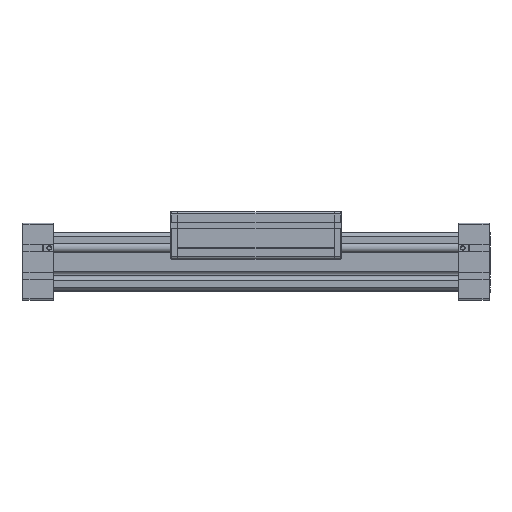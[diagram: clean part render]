
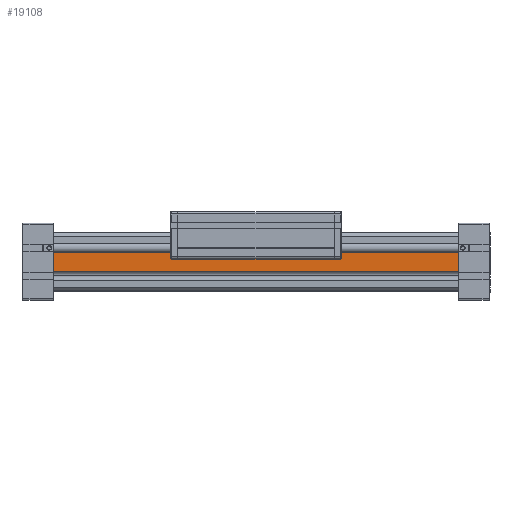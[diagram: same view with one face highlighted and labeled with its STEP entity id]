
A CAD part, top view. The second image highlights one B-rep face of the part: STEP entity #19108.
In plain terms, the highlighted planar face has unit normal (0, 0, 1) as drawn and (0, 0, -1) by its records, which use the part's own axes.
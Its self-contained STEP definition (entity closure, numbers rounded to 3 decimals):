
#1798 = LINE ( 'NONE', #12099, #14623 ) ;
#1873 = CARTESIAN_POINT ( 'NONE',  ( 0., -20.835, -62.5 ) ) ;
#3529 = CARTESIAN_POINT ( 'NONE',  ( 870., 0., -62.5 ) ) ;
#3627 = DIRECTION ( 'NONE',  ( -1., 0., 0. ) ) ;
#4344 = ORIENTED_EDGE ( 'NONE', *, *, #7198, .F. ) ;
#4912 = DIRECTION ( 'NONE',  ( 0., -1., 0. ) ) ;
#5249 = VECTOR ( 'NONE', #13416, 1000. ) ;
#6005 = VECTOR ( 'NONE', #29357, 1000. ) ;
#6277 = ORIENTED_EDGE ( 'NONE', *, *, #24091, .T. ) ;
#7198 = EDGE_CURVE ( 'NONE', #9130, #12306, #18128, .T. ) ;
#7518 = LINE ( 'NONE', #26867, #13978 ) ;
#9130 = VERTEX_POINT ( 'NONE', #9830 ) ;
#9830 = CARTESIAN_POINT ( 'NONE',  ( 870., 20.835, -62.5 ) ) ;
#12099 = CARTESIAN_POINT ( 'NONE',  ( 0., 0., -62.5 ) ) ;
#12306 = VERTEX_POINT ( 'NONE', #12961 ) ;
#12961 = CARTESIAN_POINT ( 'NONE',  ( 0., 20.835, -62.5 ) ) ;
#13416 = DIRECTION ( 'NONE',  ( -1., 0., 0. ) ) ;
#13978 = VECTOR ( 'NONE', #29265, 1000. ) ;
#14623 = VECTOR ( 'NONE', #4912, 1000. ) ;
#15683 = PLANE ( 'NONE',  #22402 ) ;
#17376 = EDGE_LOOP ( 'NONE', ( #30783, #4344, #30407, #6277 ) ) ;
#17868 = CARTESIAN_POINT ( 'NONE',  ( 870., -20.835, -62.5 ) ) ;
#18106 = DIRECTION ( 'NONE',  ( 0., 0., -1. ) ) ;
#18128 = LINE ( 'NONE', #23126, #5249 ) ;
#19108 = ADVANCED_FACE ( 'NONE', ( #25450 ), #15683, .T. ) ;
#19700 = CARTESIAN_POINT ( 'NONE',  ( 870., 0., -62.5 ) ) ;
#20707 = EDGE_CURVE ( 'NONE', #12306, #28911, #1798, .T. ) ;
#22402 = AXIS2_PLACEMENT_3D ( 'NONE', #3529, #18106, #3627 ) ;
#23126 = CARTESIAN_POINT ( 'NONE',  ( 870., 20.835, -62.5 ) ) ;
#24091 = EDGE_CURVE ( 'NONE', #24243, #28911, #7518, .T. ) ;
#24108 = EDGE_CURVE ( 'NONE', #9130, #24243, #26071, .T. ) ;
#24243 = VERTEX_POINT ( 'NONE', #17868 ) ;
#25450 = FACE_OUTER_BOUND ( 'NONE', #17376, .T. ) ;
#26071 = LINE ( 'NONE', #19700, #6005 ) ;
#26867 = CARTESIAN_POINT ( 'NONE',  ( 870., -20.835, -62.5 ) ) ;
#28911 = VERTEX_POINT ( 'NONE', #1873 ) ;
#29265 = DIRECTION ( 'NONE',  ( -1., 0., 0. ) ) ;
#29357 = DIRECTION ( 'NONE',  ( 0., -1., 0. ) ) ;
#30407 = ORIENTED_EDGE ( 'NONE', *, *, #24108, .T. ) ;
#30783 = ORIENTED_EDGE ( 'NONE', *, *, #20707, .F. ) ;
